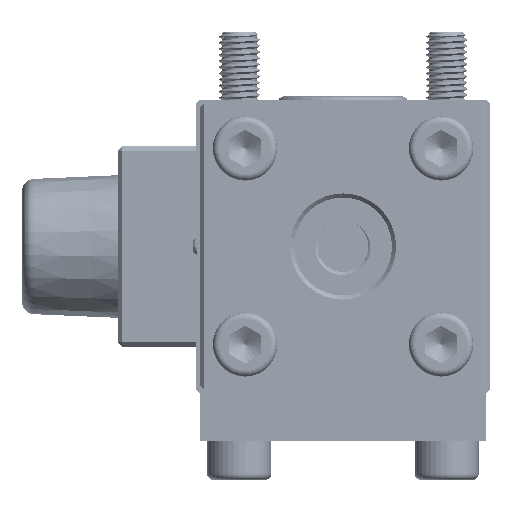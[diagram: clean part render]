
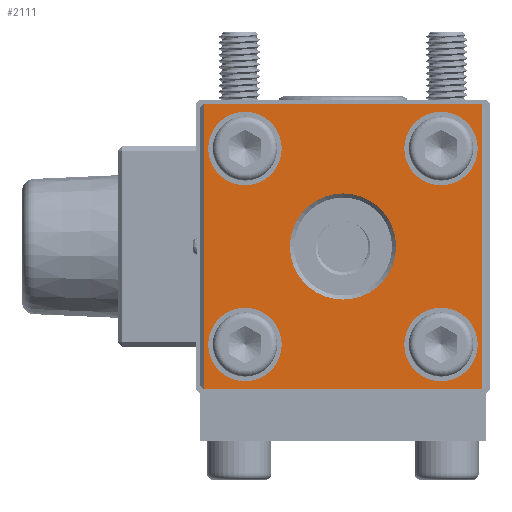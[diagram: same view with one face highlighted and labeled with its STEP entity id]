
A CAD part, left-side view. The second image highlights one B-rep face of the part: STEP entity #2111.
In plain terms, the highlighted planar face has unit normal (-1, 0, 0).
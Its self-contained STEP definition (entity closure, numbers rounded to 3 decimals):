
#1553=FACE_BOUND('',#3643,.T.);
#1554=FACE_BOUND('',#3644,.T.);
#1555=FACE_BOUND('',#3645,.T.);
#1556=FACE_BOUND('',#3646,.T.);
#1557=FACE_BOUND('',#3647,.T.);
#1558=FACE_BOUND('',#3648,.T.);
#2111=ADVANCED_FACE('',(#1553,#1554,#1555,#1556,#1557,#1558),#2579,.F.);
#2579=PLANE('',#11338);
#3643=EDGE_LOOP('',(#7177));
#3644=EDGE_LOOP('',(#7178));
#3645=EDGE_LOOP('',(#7179));
#3646=EDGE_LOOP('',(#7180));
#3647=EDGE_LOOP('',(#7181));
#3648=EDGE_LOOP('',(#7182,#7183,#7184,#7185));
#4886=LINE('',#75443,#5511);
#4887=LINE('',#75446,#5512);
#4888=LINE('',#75448,#5513);
#4889=LINE('',#75450,#5514);
#5511=VECTOR('',#12750,1.);
#5512=VECTOR('',#12751,1.);
#5513=VECTOR('',#12752,1.);
#5514=VECTOR('',#12753,1.);
#7177=ORIENTED_EDGE('',*,*,#10060,.T.);
#7178=ORIENTED_EDGE('',*,*,#10061,.T.);
#7179=ORIENTED_EDGE('',*,*,#10062,.T.);
#7180=ORIENTED_EDGE('',*,*,#10063,.T.);
#7181=ORIENTED_EDGE('',*,*,#10064,.F.);
#7182=ORIENTED_EDGE('',*,*,#10065,.T.);
#7183=ORIENTED_EDGE('',*,*,#10066,.F.);
#7184=ORIENTED_EDGE('',*,*,#10067,.F.);
#7185=ORIENTED_EDGE('',*,*,#10068,.T.);
#8961=VERTEX_POINT('',#75434);
#8962=VERTEX_POINT('',#75436);
#8963=VERTEX_POINT('',#75438);
#8964=VERTEX_POINT('',#75440);
#8965=VERTEX_POINT('',#75442);
#8966=VERTEX_POINT('',#75444);
#8967=VERTEX_POINT('',#75445);
#8968=VERTEX_POINT('',#75447);
#8969=VERTEX_POINT('',#75449);
#10060=EDGE_CURVE('',#8961,#8961,#10838,.T.);
#10061=EDGE_CURVE('',#8962,#8962,#10839,.T.);
#10062=EDGE_CURVE('',#8963,#8963,#10840,.T.);
#10063=EDGE_CURVE('',#8964,#8964,#10841,.T.);
#10064=EDGE_CURVE('',#8965,#8965,#10842,.T.);
#10065=EDGE_CURVE('',#8966,#8967,#4886,.T.);
#10066=EDGE_CURVE('',#8968,#8967,#4887,.T.);
#10067=EDGE_CURVE('',#8969,#8968,#4888,.T.);
#10068=EDGE_CURVE('',#8969,#8966,#4889,.T.);
#10838=CIRCLE('',#11333,9.);
#10839=CIRCLE('',#11334,9.);
#10840=CIRCLE('',#11335,9.);
#10841=CIRCLE('',#11336,9.);
#10842=CIRCLE('',#11337,13.);
#11333=AXIS2_PLACEMENT_3D('',#75433,#12740,#12741);
#11334=AXIS2_PLACEMENT_3D('',#75435,#12742,#12743);
#11335=AXIS2_PLACEMENT_3D('',#75437,#12744,#12745);
#11336=AXIS2_PLACEMENT_3D('',#75439,#12746,#12747);
#11337=AXIS2_PLACEMENT_3D('',#75441,#12748,#12749);
#11338=AXIS2_PLACEMENT_3D('',#75451,#12754,#12755);
#12740=DIRECTION('',(1.,0.,0.));
#12741=DIRECTION('',(0.,0.,-1.));
#12742=DIRECTION('',(1.,0.,0.));
#12743=DIRECTION('',(0.,0.,-1.));
#12744=DIRECTION('',(1.,0.,0.));
#12745=DIRECTION('',(0.,0.,-1.));
#12746=DIRECTION('',(1.,0.,0.));
#12747=DIRECTION('',(0.,0.,-1.));
#12748=DIRECTION('',(-1.,0.,0.));
#12749=DIRECTION('',(0.,0.,1.));
#12750=DIRECTION('',(0.,-1.,0.));
#12751=DIRECTION('',(0.,0.,-1.));
#12752=DIRECTION('',(0.,-1.,0.));
#12753=DIRECTION('',(0.,0.,-1.));
#12754=DIRECTION('',(1.,0.,0.));
#12755=DIRECTION('',(0.,0.,1.));
#75433=CARTESIAN_POINT('',(152.452,226.81,-24.107));
#75434=CARTESIAN_POINT('',(152.452,226.81,-33.107));
#75435=CARTESIAN_POINT('',(152.452,226.81,23.893));
#75436=CARTESIAN_POINT('',(152.452,226.81,14.893));
#75437=CARTESIAN_POINT('',(152.452,274.81,-24.107));
#75438=CARTESIAN_POINT('',(152.452,274.81,-33.107));
#75439=CARTESIAN_POINT('',(152.452,274.81,23.893));
#75440=CARTESIAN_POINT('',(152.452,274.81,14.893));
#75441=CARTESIAN_POINT('',(152.452,250.81,-0.107));
#75442=CARTESIAN_POINT('',(152.452,250.81,12.893));
#75443=CARTESIAN_POINT('',(152.452,284.81,-35.107));
#75444=CARTESIAN_POINT('',(152.452,284.81,-35.107));
#75445=CARTESIAN_POINT('',(152.452,216.81,-35.107));
#75446=CARTESIAN_POINT('',(152.452,216.81,34.893));
#75447=CARTESIAN_POINT('',(152.452,216.81,34.893));
#75448=CARTESIAN_POINT('',(152.452,284.81,34.893));
#75449=CARTESIAN_POINT('',(152.452,284.81,34.893));
#75450=CARTESIAN_POINT('',(152.452,284.81,34.893));
#75451=CARTESIAN_POINT('',(152.452,284.81,34.893));
